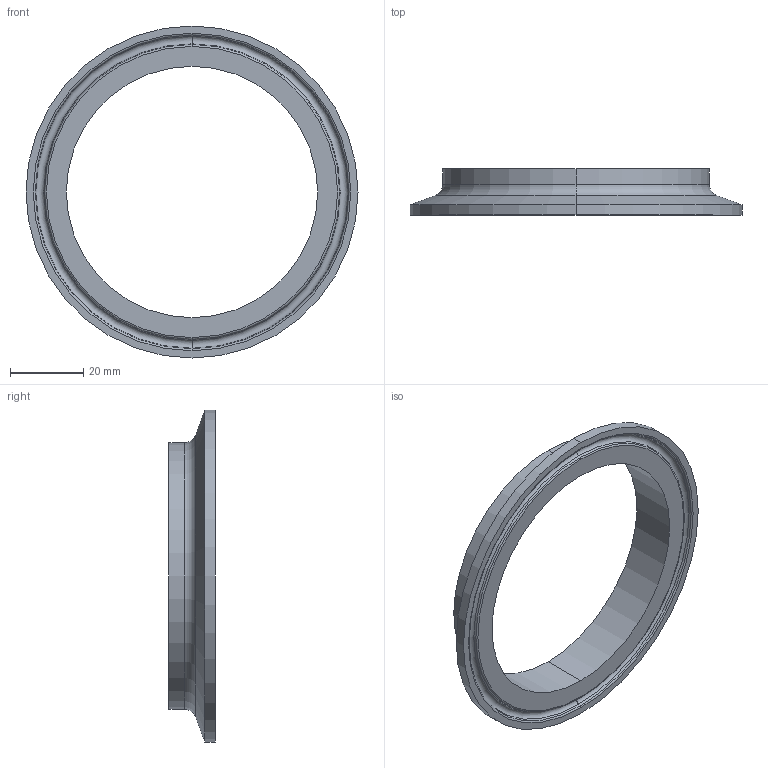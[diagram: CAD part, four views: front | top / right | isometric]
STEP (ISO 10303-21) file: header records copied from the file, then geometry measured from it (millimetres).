
FILE_DESCRIPTION (( 'STEP AP214' ), '1' );
FILE_NAME ('EG2CS-5-2.5.STEP', '2025-07-30T19:03:21', ( '' ), ( '' ), 'SwSTEP 2.0', 'SolidWorks 2022', '' );
FILE_SCHEMA (( 'AUTOMOTIVE_DESIGN' ));
Length unit declared in the file: inch
Products named in the file (1): EG2CS-5-2.5
Bounding box: 90.91 x 12.7 x 90.91 mm (x, y, z)
Volume: 15434.1 mm3; surface area: 11054 mm2
Topology: 1 solids, 1 shells, 23 faces, 46 edges, 26 vertices
Faces by surface type: torus 8, cylinder 6, cone 6, plane 3
Entity records: 646 total; most frequent: DIRECTION 128, CARTESIAN_POINT 96, ORIENTED_EDGE 92, AXIS2_PLACEMENT_3D 58, EDGE_CURVE 46, CIRCLE 34, EDGE_LOOP 26, VERTEX_POINT 26
